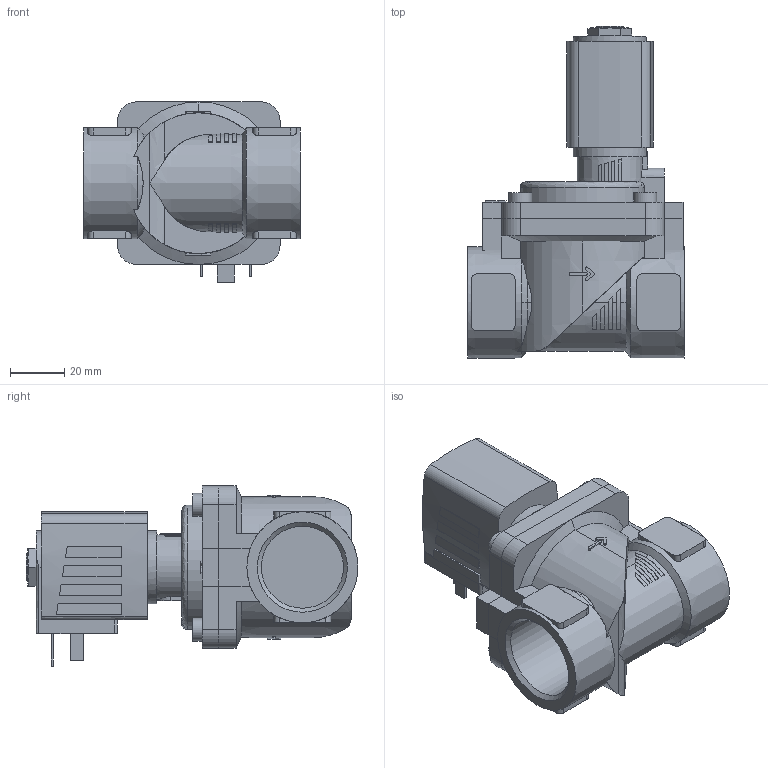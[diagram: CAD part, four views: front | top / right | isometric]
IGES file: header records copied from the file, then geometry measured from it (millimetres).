
Start section: Data from Parasolid IGES Translator 26.0.171, Copyright(c) 2006 Siemens PLM Software. All Rights Reserved.
Global section: file name: 6281-348834-2_2-Way_Solenoid_Valve__Servo-assisted__General_Purpose.igs; native system: By Siemens PLM Incorporated; preprocessor: XPlus GENERIC/IGES 26.0.171; author: Noname; organization: Noname; date: 20240527.114030; units: inch
Bounding box: 80 x 122.5 x 66.5 mm (x, y, z)
Surface area: 46083 mm2 (no closed solid volume)
Topology: 0 solids, 0 shells, 352 faces, 1820 edges, 1805 vertices
Faces by surface type: extrusion 229, revolution 123
